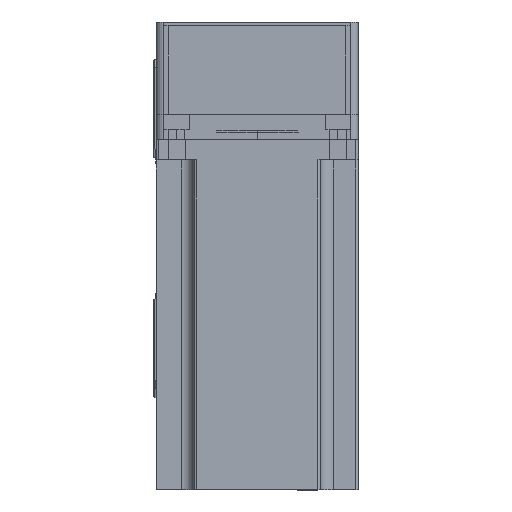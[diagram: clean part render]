
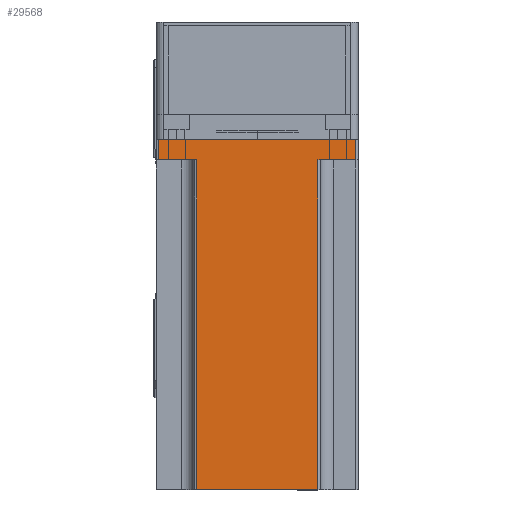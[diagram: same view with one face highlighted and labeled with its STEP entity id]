
A CAD part, top view. The second image highlights one B-rep face of the part: STEP entity #29568.
In plain terms, the highlighted planar face has unit normal (0, 0, 1) as drawn and (0, 1, 0) by its records, which use the part's own axes.
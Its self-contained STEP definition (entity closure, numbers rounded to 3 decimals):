
#925 = DIRECTION ( 'NONE',  ( 1., 0., 0. ) ) ;
#1118 = CARTESIAN_POINT ( 'NONE',  ( -24., 40., 138.3 ) ) ;
#3436 = DIRECTION ( 'NONE',  ( -1., 0., 0. ) ) ;
#3801 = LINE ( 'NONE', #22616, #51642 ) ;
#4824 = EDGE_CURVE ( 'NONE', #43435, #27052, #18987, .T. ) ;
#4893 = VERTEX_POINT ( 'NONE', #30133 ) ;
#5119 = CARTESIAN_POINT ( 'NONE',  ( 24., 40., 8. ) ) ;
#7944 = EDGE_CURVE ( 'NONE', #40476, #12325, #47867, .T. ) ;
#9395 = ORIENTED_EDGE ( 'NONE', *, *, #54314, .T. ) ;
#9733 = VECTOR ( 'NONE', #26615, 1000. ) ;
#9813 = LINE ( 'NONE', #17481, #59211 ) ;
#10381 = PLANE ( 'NONE',  #26826 ) ;
#10792 = VECTOR ( 'NONE', #45657, 1000. ) ;
#12063 = EDGE_CURVE ( 'NONE', #40476, #38728, #23476, .T. ) ;
#12325 = VERTEX_POINT ( 'NONE', #5119 ) ;
#17481 = CARTESIAN_POINT ( 'NONE',  ( 40., 40., 138.3 ) ) ;
#18475 = CARTESIAN_POINT ( 'NONE',  ( 24., 40., 138.3 ) ) ;
#18678 = CARTESIAN_POINT ( 'NONE',  ( -39., 40., 0. ) ) ;
#18987 = LINE ( 'NONE', #1118, #57212 ) ;
#20413 = EDGE_LOOP ( 'NONE', ( #35896, #36315, #48210, #9395, #32967, #58468, #48022, #57492 ) ) ;
#20913 = DIRECTION ( 'NONE',  ( 1., 0., 0. ) ) ;
#22616 = CARTESIAN_POINT ( 'NONE',  ( -39., 40., 138.3 ) ) ;
#23476 = LINE ( 'NONE', #45255, #10792 ) ;
#24577 = EDGE_CURVE ( 'NONE', #42378, #46947, #3801, .T. ) ;
#26615 = DIRECTION ( 'NONE',  ( -1., 0., 0. ) ) ;
#26826 = AXIS2_PLACEMENT_3D ( 'NONE', #58272, #29551, #925 ) ;
#27052 = VERTEX_POINT ( 'NONE', #51167 ) ;
#29551 = DIRECTION ( 'NONE',  ( 0., -1., 0. ) ) ;
#29568 = ADVANCED_FACE ( 'NONE', ( #55191 ), #10381, .F. ) ;
#29731 = DIRECTION ( 'NONE',  ( 0., 0., 1. ) ) ;
#29867 = EDGE_CURVE ( 'NONE', #38728, #42378, #31836, .T. ) ;
#30133 = CARTESIAN_POINT ( 'NONE',  ( 24., 40., 138.3 ) ) ;
#30805 = CARTESIAN_POINT ( 'NONE',  ( 39., 40., 0. ) ) ;
#31836 = LINE ( 'NONE', #32016, #57376 ) ;
#32016 = CARTESIAN_POINT ( 'NONE',  ( 40., 40., 0. ) ) ;
#32967 = ORIENTED_EDGE ( 'NONE', *, *, #7944, .F. ) ;
#35896 = ORIENTED_EDGE ( 'NONE', *, *, #42676, .T. ) ;
#36315 = ORIENTED_EDGE ( 'NONE', *, *, #4824, .T. ) ;
#36472 = CARTESIAN_POINT ( 'NONE',  ( 39., 40., 8. ) ) ;
#37700 = DIRECTION ( 'NONE',  ( 0., 0., -1. ) ) ;
#38728 = VERTEX_POINT ( 'NONE', #30805 ) ;
#40476 = VERTEX_POINT ( 'NONE', #36472 ) ;
#42378 = VERTEX_POINT ( 'NONE', #18678 ) ;
#42676 = EDGE_CURVE ( 'NONE', #46947, #43435, #45461, .T. ) ;
#43056 = CARTESIAN_POINT ( 'NONE',  ( -39., 40., 8. ) ) ;
#43435 = VERTEX_POINT ( 'NONE', #56014 ) ;
#44535 = VECTOR ( 'NONE', #37700, 1000. ) ;
#44768 = CARTESIAN_POINT ( 'NONE',  ( -25., 40., 8. ) ) ;
#45255 = CARTESIAN_POINT ( 'NONE',  ( 39., 40., 138.3 ) ) ;
#45461 = LINE ( 'NONE', #44768, #58241 ) ;
#45657 = DIRECTION ( 'NONE',  ( 0., 0., -1. ) ) ;
#46130 = DIRECTION ( 'NONE',  ( -1., 0., 0. ) ) ;
#46947 = VERTEX_POINT ( 'NONE', #43056 ) ;
#47867 = LINE ( 'NONE', #55295, #9733 ) ;
#48022 = ORIENTED_EDGE ( 'NONE', *, *, #29867, .T. ) ;
#48210 = ORIENTED_EDGE ( 'NONE', *, *, #59943, .F. ) ;
#51167 = CARTESIAN_POINT ( 'NONE',  ( -24., 40., 138.3 ) ) ;
#51642 = VECTOR ( 'NONE', #56136, 1000. ) ;
#54314 = EDGE_CURVE ( 'NONE', #4893, #12325, #57333, .T. ) ;
#55191 = FACE_OUTER_BOUND ( 'NONE', #20413, .T. ) ;
#55295 = CARTESIAN_POINT ( 'NONE',  ( 25., 40., 8. ) ) ;
#56014 = CARTESIAN_POINT ( 'NONE',  ( -24., 40., 8. ) ) ;
#56136 = DIRECTION ( 'NONE',  ( 0., 0., 1. ) ) ;
#57212 = VECTOR ( 'NONE', #29731, 1000. ) ;
#57333 = LINE ( 'NONE', #18475, #44535 ) ;
#57376 = VECTOR ( 'NONE', #3436, 1000. ) ;
#57492 = ORIENTED_EDGE ( 'NONE', *, *, #24577, .T. ) ;
#58241 = VECTOR ( 'NONE', #20913, 1000. ) ;
#58272 = CARTESIAN_POINT ( 'NONE',  ( 40., 40., 138.3 ) ) ;
#58468 = ORIENTED_EDGE ( 'NONE', *, *, #12063, .T. ) ;
#59211 = VECTOR ( 'NONE', #46130, 1000. ) ;
#59943 = EDGE_CURVE ( 'NONE', #4893, #27052, #9813, .T. ) ;
